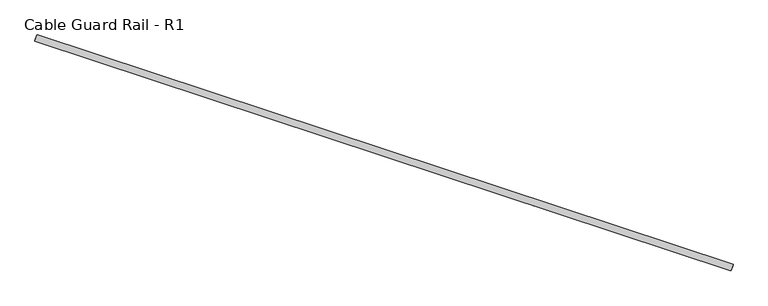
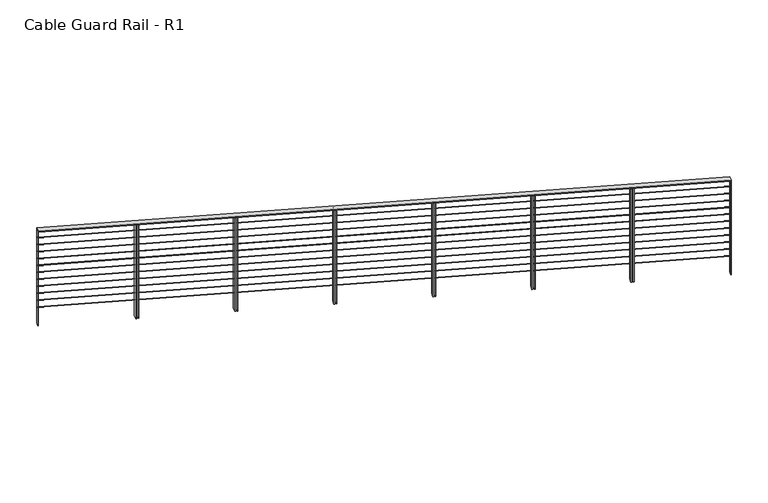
"""IFC4 building model written with IfcOpenShell, lengths in millimetres: railing geometry, Cable Guard Rail - R1."""

from ifc_helpers import new_model, si_unit, frame, origin, place, context, project, spatial, polyline, ellipse_curve, outline, extrude, faceted_brep, source, transform, mapped, element, save
from ifc_brep_helpers import plane_surface, cylinder_surface, advanced_brep


def cable_guard_rail_r1_774e3085(model_context):
    return source(origin(), model_context, "Body", "SolidModel", [
        faceted_brep([(48048.8260225, 189276.4688477, 295363.9), (48024.9235876, 189204.1147627, 295363.9), (48024.9235876, 189204.1147627, 295351.1813563), (48048.8260225, 189276.4688477, 295351.1813563), (40023.3252325, 191927.7222021, 295822.044981), (40023.3252325, 191927.7222021, 295809.3263373), (39999.4227976, 191855.3681172, 295809.3263373), (39999.4227976, 191855.3681172, 295822.044981)], [[[0, 1, 2, 3]], [[4, 5, 6, 7]], [[1, 0, 4, 7]], [[2, 1, 7, 6]], [[3, 2, 6, 5]], [[0, 3, 5, 4]]]),
        advanced_brep(
        [(48035.8788703, 189237.2770517, 295249.6), (48037.8707399, 189243.3065587, 295249.6), (40010.3780803, 191888.5304061, 295707.744981), (40012.3699499, 191894.5599132, 295707.744981)],
        [
            (0, 1, ellipse_curve(frame((48036.8748051, 189240.2918052, 295249.6), z_axis=(0.9495286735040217, -0.31368024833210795, 0.0), x_axis=(0.0, 0.0, -1.0)), 3.1796609, 3.175)),
            (1, 0, ellipse_curve(frame((48036.8748051, 189240.2918052, 295249.6), z_axis=(0.9495286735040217, -0.31368024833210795, 0.0), x_axis=(0.0, 0.0, -1.0)), 3.1796609, 3.175)),
            (2, 3, ellipse_curve(frame((40011.3740151, 191891.5451597, 295707.744981), z_axis=(-0.9495286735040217, 0.31368024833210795, 0.0), x_axis=(0.0, 0.0, -1.0)), 3.1796609, 3.175)),
            (3, 2, ellipse_curve(frame((40011.3740151, 191891.5451597, 295707.744981), z_axis=(-0.9495286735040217, 0.31368024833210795, 0.0), x_axis=(0.0, 0.0, -1.0)), 3.1796609, 3.175)),
            (0, 2),
            (3, 1),
        ],
        [
            plane_surface(frame((48036.8748051, 189240.2918052, 295249.6), z_axis=(0.9495286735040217, -0.31368024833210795, 0.0), x_axis=(0.31368024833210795, 0.9495286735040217, 0.0))),
            plane_surface(frame((40011.3740151, 191891.5451597, 295707.744981), z_axis=(-0.9495286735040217, 0.31368024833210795, 0.0), x_axis=(0.31368024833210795, 0.9495286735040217, 0.0))),
            cylinder_surface(frame((48036.8748051, 189240.2918052, 295249.6), z_axis=(0.9481367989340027, -0.3132204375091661, -0.05412548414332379), x_axis=(0.31368024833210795, 0.9495286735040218, 0.0)), 3.175),
        ],
        [
            (0, [[1, 2]]),
            (1, [[3, 4]]),
            (2, [[-1, 5, -4, 6]]),
            (2, [[-2, -6, -3, -5]]),
        ],
    ),
        advanced_brep(
        [(48035.8788703, 189237.2770517, 295148.0), (48037.8707399, 189243.3065587, 295148.0), (40010.3780803, 191888.5304061, 295606.144981), (40012.3699499, 191894.5599132, 295606.144981)],
        [
            (0, 1, ellipse_curve(frame((48036.8748051, 189240.2918052, 295148.0), z_axis=(0.9495286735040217, -0.31368024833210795, 0.0), x_axis=(0.0, 0.0, -1.0)), 3.1796609, 3.175)),
            (1, 0, ellipse_curve(frame((48036.8748051, 189240.2918052, 295148.0), z_axis=(0.9495286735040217, -0.31368024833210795, 0.0), x_axis=(0.0, 0.0, -1.0)), 3.1796609, 3.175)),
            (2, 3, ellipse_curve(frame((40011.3740151, 191891.5451597, 295606.144981), z_axis=(-0.9495286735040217, 0.31368024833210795, 0.0), x_axis=(0.0, 0.0, -1.0)), 3.1796609, 3.175)),
            (3, 2, ellipse_curve(frame((40011.3740151, 191891.5451597, 295606.144981), z_axis=(-0.9495286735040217, 0.31368024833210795, 0.0), x_axis=(0.0, 0.0, -1.0)), 3.1796609, 3.175)),
            (0, 2),
            (3, 1),
        ],
        [
            plane_surface(frame((48036.8748051, 189240.2918052, 295148.0), z_axis=(0.9495286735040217, -0.31368024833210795, 0.0), x_axis=(0.31368024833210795, 0.9495286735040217, 0.0))),
            plane_surface(frame((40011.3740151, 191891.5451597, 295606.144981), z_axis=(-0.9495286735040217, 0.31368024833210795, 0.0), x_axis=(0.31368024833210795, 0.9495286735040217, 0.0))),
            cylinder_surface(frame((48036.8748051, 189240.2918052, 295148.0), z_axis=(0.9481367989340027, -0.3132204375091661, -0.05412548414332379), x_axis=(0.31368024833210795, 0.9495286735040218, 0.0)), 3.175),
        ],
        [
            (0, [[1, 2]]),
            (1, [[3, 4]]),
            (2, [[-1, 5, -4, 6]]),
            (2, [[-2, -6, -3, -5]]),
        ],
    ),
        advanced_brep(
        [(48035.8788703, 189237.2770517, 295046.4), (48037.8707399, 189243.3065587, 295046.4), (40010.3780803, 191888.5304061, 295504.544981), (40012.3699499, 191894.5599132, 295504.544981)],
        [
            (0, 1, ellipse_curve(frame((48036.8748051, 189240.2918052, 295046.4), z_axis=(0.9495286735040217, -0.31368024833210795, 0.0), x_axis=(0.0, 0.0, -1.0)), 3.1796609, 3.175)),
            (1, 0, ellipse_curve(frame((48036.8748051, 189240.2918052, 295046.4), z_axis=(0.9495286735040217, -0.31368024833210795, 0.0), x_axis=(0.0, 0.0, -1.0)), 3.1796609, 3.175)),
            (2, 3, ellipse_curve(frame((40011.3740151, 191891.5451597, 295504.544981), z_axis=(-0.9495286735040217, 0.31368024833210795, 0.0), x_axis=(0.0, 0.0, -1.0)), 3.1796609, 3.175)),
            (3, 2, ellipse_curve(frame((40011.3740151, 191891.5451597, 295504.544981), z_axis=(-0.9495286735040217, 0.31368024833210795, 0.0), x_axis=(0.0, 0.0, -1.0)), 3.1796609, 3.175)),
            (0, 2),
            (3, 1),
        ],
        [
            plane_surface(frame((48036.8748051, 189240.2918052, 295046.4), z_axis=(0.9495286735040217, -0.31368024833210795, 0.0), x_axis=(0.31368024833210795, 0.9495286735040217, 0.0))),
            plane_surface(frame((40011.3740151, 191891.5451597, 295504.544981), z_axis=(-0.9495286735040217, 0.31368024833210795, 0.0), x_axis=(0.31368024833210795, 0.9495286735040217, 0.0))),
            cylinder_surface(frame((48036.8748051, 189240.2918052, 295046.4), z_axis=(0.9481367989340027, -0.3132204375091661, -0.05412548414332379), x_axis=(0.31368024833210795, 0.9495286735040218, 0.0)), 3.175),
        ],
        [
            (0, [[1, 2]]),
            (1, [[3, 4]]),
            (2, [[-1, 5, -4, 6]]),
            (2, [[-2, -6, -3, -5]]),
        ],
    ),
        advanced_brep(
        [(48035.8788703, 189237.2770517, 294944.8), (48037.8707399, 189243.3065587, 294944.8), (40010.3780803, 191888.5304061, 295402.944981), (40012.3699499, 191894.5599132, 295402.944981)],
        [
            (0, 1, ellipse_curve(frame((48036.8748051, 189240.2918052, 294944.8), z_axis=(0.9495286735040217, -0.31368024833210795, 0.0), x_axis=(0.0, 0.0, -1.0)), 3.1796609, 3.175)),
            (1, 0, ellipse_curve(frame((48036.8748051, 189240.2918052, 294944.8), z_axis=(0.9495286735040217, -0.31368024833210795, 0.0), x_axis=(0.0, 0.0, -1.0)), 3.1796609, 3.175)),
            (2, 3, ellipse_curve(frame((40011.3740151, 191891.5451597, 295402.944981), z_axis=(-0.9495286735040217, 0.31368024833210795, 0.0), x_axis=(0.0, 0.0, -1.0)), 3.1796609, 3.175)),
            (3, 2, ellipse_curve(frame((40011.3740151, 191891.5451597, 295402.944981), z_axis=(-0.9495286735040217, 0.31368024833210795, 0.0), x_axis=(0.0, 0.0, -1.0)), 3.1796609, 3.175)),
            (0, 2),
            (3, 1),
        ],
        [
            plane_surface(frame((48036.8748051, 189240.2918052, 294944.8), z_axis=(0.9495286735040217, -0.31368024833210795, 0.0), x_axis=(0.31368024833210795, 0.9495286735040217, 0.0))),
            plane_surface(frame((40011.3740151, 191891.5451597, 295402.944981), z_axis=(-0.9495286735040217, 0.31368024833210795, 0.0), x_axis=(0.31368024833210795, 0.9495286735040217, 0.0))),
            cylinder_surface(frame((48036.8748051, 189240.2918052, 294944.8), z_axis=(0.9481367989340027, -0.3132204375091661, -0.05412548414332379), x_axis=(0.31368024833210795, 0.9495286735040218, 0.0)), 3.175),
        ],
        [
            (0, [[1, 2]]),
            (1, [[3, 4]]),
            (2, [[-1, 5, -4, 6]]),
            (2, [[-2, -6, -3, -5]]),
        ],
    ),
        advanced_brep(
        [(48035.8788703, 189237.2770517, 294843.2), (48037.8707399, 189243.3065587, 294843.2), (40010.3780803, 191888.5304061, 295301.344981), (40012.3699499, 191894.5599132, 295301.344981)],
        [
            (0, 1, ellipse_curve(frame((48036.8748051, 189240.2918052, 294843.2), z_axis=(0.9495286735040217, -0.31368024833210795, 0.0), x_axis=(0.0, 0.0, -1.0)), 3.1796609, 3.175)),
            (1, 0, ellipse_curve(frame((48036.8748051, 189240.2918052, 294843.2), z_axis=(0.9495286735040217, -0.31368024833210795, 0.0), x_axis=(0.0, 0.0, -1.0)), 3.1796609, 3.175)),
            (2, 3, ellipse_curve(frame((40011.3740151, 191891.5451597, 295301.344981), z_axis=(-0.9495286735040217, 0.31368024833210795, 0.0), x_axis=(0.0, 0.0, -1.0)), 3.1796609, 3.175)),
            (3, 2, ellipse_curve(frame((40011.3740151, 191891.5451597, 295301.344981), z_axis=(-0.9495286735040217, 0.31368024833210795, 0.0), x_axis=(0.0, 0.0, -1.0)), 3.1796609, 3.175)),
            (0, 2),
            (3, 1),
        ],
        [
            plane_surface(frame((48036.8748051, 189240.2918052, 294843.2), z_axis=(0.9495286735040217, -0.31368024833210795, 0.0), x_axis=(0.31368024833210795, 0.9495286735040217, 0.0))),
            plane_surface(frame((40011.3740151, 191891.5451597, 295301.344981), z_axis=(-0.9495286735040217, 0.31368024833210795, 0.0), x_axis=(0.31368024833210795, 0.9495286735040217, 0.0))),
            cylinder_surface(frame((48036.8748051, 189240.2918052, 294843.2), z_axis=(0.9481367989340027, -0.3132204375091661, -0.05412548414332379), x_axis=(0.31368024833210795, 0.9495286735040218, 0.0)), 3.175),
        ],
        [
            (0, [[1, 2]]),
            (1, [[3, 4]]),
            (2, [[-1, 5, -4, 6]]),
            (2, [[-2, -6, -3, -5]]),
        ],
    ),
        advanced_brep(
        [(48035.8788703, 189237.2770517, 294741.6), (48037.8707399, 189243.3065587, 294741.6), (40010.3780803, 191888.5304061, 295199.744981), (40012.3699499, 191894.5599132, 295199.744981)],
        [
            (0, 1, ellipse_curve(frame((48036.8748051, 189240.2918052, 294741.6), z_axis=(0.9495286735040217, -0.31368024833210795, 0.0), x_axis=(0.0, 0.0, -1.0)), 3.1796609, 3.175)),
            (1, 0, ellipse_curve(frame((48036.8748051, 189240.2918052, 294741.6), z_axis=(0.9495286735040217, -0.31368024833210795, 0.0), x_axis=(0.0, 0.0, -1.0)), 3.1796609, 3.175)),
            (2, 3, ellipse_curve(frame((40011.3740151, 191891.5451597, 295199.744981), z_axis=(-0.9495286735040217, 0.31368024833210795, 0.0), x_axis=(0.0, 0.0, -1.0)), 3.1796609, 3.175)),
            (3, 2, ellipse_curve(frame((40011.3740151, 191891.5451597, 295199.744981), z_axis=(-0.9495286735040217, 0.31368024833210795, 0.0), x_axis=(0.0, 0.0, -1.0)), 3.1796609, 3.175)),
            (0, 2),
            (3, 1),
        ],
        [
            plane_surface(frame((48036.8748051, 189240.2918052, 294741.6), z_axis=(0.9495286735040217, -0.31368024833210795, 0.0), x_axis=(0.31368024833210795, 0.9495286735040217, 0.0))),
            plane_surface(frame((40011.3740151, 191891.5451597, 295199.744981), z_axis=(-0.9495286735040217, 0.31368024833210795, 0.0), x_axis=(0.31368024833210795, 0.9495286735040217, 0.0))),
            cylinder_surface(frame((48036.8748051, 189240.2918052, 294741.6), z_axis=(0.9481367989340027, -0.3132204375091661, -0.05412548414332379), x_axis=(0.31368024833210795, 0.9495286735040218, 0.0)), 3.175),
        ],
        [
            (0, [[1, 2]]),
            (1, [[3, 4]]),
            (2, [[-1, 5, -4, 6]]),
            (2, [[-2, -6, -3, -5]]),
        ],
    ),
        advanced_brep(
        [(48035.8788703, 189237.2770517, 294640.0), (48037.8707399, 189243.3065587, 294640.0), (40010.3780803, 191888.5304061, 295098.144981), (40012.3699499, 191894.5599132, 295098.144981)],
        [
            (0, 1, ellipse_curve(frame((48036.8748051, 189240.2918052, 294640.0), z_axis=(0.9495286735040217, -0.31368024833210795, 0.0), x_axis=(0.0, 0.0, -1.0)), 3.1796609, 3.175)),
            (1, 0, ellipse_curve(frame((48036.8748051, 189240.2918052, 294640.0), z_axis=(0.9495286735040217, -0.31368024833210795, 0.0), x_axis=(0.0, 0.0, -1.0)), 3.1796609, 3.175)),
            (2, 3, ellipse_curve(frame((40011.3740151, 191891.5451597, 295098.144981), z_axis=(-0.9495286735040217, 0.31368024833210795, 0.0), x_axis=(0.0, 0.0, -1.0)), 3.1796609, 3.175)),
            (3, 2, ellipse_curve(frame((40011.3740151, 191891.5451597, 295098.144981), z_axis=(-0.9495286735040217, 0.31368024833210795, 0.0), x_axis=(0.0, 0.0, -1.0)), 3.1796609, 3.175)),
            (0, 2),
            (3, 1),
        ],
        [
            plane_surface(frame((48036.8748051, 189240.2918052, 294640.0), z_axis=(0.9495286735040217, -0.31368024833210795, 0.0), x_axis=(0.31368024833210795, 0.9495286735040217, 0.0))),
            plane_surface(frame((40011.3740151, 191891.5451597, 295098.144981), z_axis=(-0.9495286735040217, 0.31368024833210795, 0.0), x_axis=(0.31368024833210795, 0.9495286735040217, 0.0))),
            cylinder_surface(frame((48036.8748051, 189240.2918052, 294640.0), z_axis=(0.9481367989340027, -0.3132204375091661, -0.05412548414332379), x_axis=(0.31368024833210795, 0.9495286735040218, 0.0)), 3.175),
        ],
        [
            (0, [[1, 2]]),
            (1, [[3, 4]]),
            (2, [[-1, 5, -4, 6]]),
            (2, [[-2, -6, -3, -5]]),
        ],
    ),
        advanced_brep(
        [(48035.8788703, 189237.2770517, 294538.4), (48037.8707399, 189243.3065587, 294538.4), (40010.3780803, 191888.5304061, 294996.544981), (40012.3699499, 191894.5599132, 294996.544981)],
        [
            (0, 1, ellipse_curve(frame((48036.8748051, 189240.2918052, 294538.4), z_axis=(0.9495286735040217, -0.31368024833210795, 0.0), x_axis=(0.0, 0.0, -1.0)), 3.1796609, 3.175)),
            (1, 0, ellipse_curve(frame((48036.8748051, 189240.2918052, 294538.4), z_axis=(0.9495286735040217, -0.31368024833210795, 0.0), x_axis=(0.0, 0.0, -1.0)), 3.1796609, 3.175)),
            (2, 3, ellipse_curve(frame((40011.3740151, 191891.5451597, 294996.544981), z_axis=(-0.9495286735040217, 0.31368024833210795, 0.0), x_axis=(0.0, 0.0, -1.0)), 3.1796609, 3.175)),
            (3, 2, ellipse_curve(frame((40011.3740151, 191891.5451597, 294996.544981), z_axis=(-0.9495286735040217, 0.31368024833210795, 0.0), x_axis=(0.0, 0.0, -1.0)), 3.1796609, 3.175)),
            (0, 2),
            (3, 1),
        ],
        [
            plane_surface(frame((48036.8748051, 189240.2918052, 294538.4), z_axis=(0.9495286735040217, -0.31368024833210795, 0.0), x_axis=(0.31368024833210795, 0.9495286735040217, 0.0))),
            plane_surface(frame((40011.3740151, 191891.5451597, 294996.544981), z_axis=(-0.9495286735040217, 0.31368024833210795, 0.0), x_axis=(0.31368024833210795, 0.9495286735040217, 0.0))),
            cylinder_surface(frame((48036.8748051, 189240.2918052, 294538.4), z_axis=(0.9481367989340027, -0.3132204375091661, -0.05412548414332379), x_axis=(0.31368024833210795, 0.9495286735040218, 0.0)), 3.175),
        ],
        [
            (0, [[1, 2]]),
            (1, [[3, 4]]),
            (2, [[-1, 5, -4, 6]]),
            (2, [[-2, -6, -3, -5]]),
        ],
    ),
        advanced_brep(
        [(48035.8788703, 189237.2770517, 294436.8), (48037.8707399, 189243.3065587, 294436.8), (40010.3780803, 191888.5304061, 294894.944981), (40012.3699499, 191894.5599132, 294894.944981)],
        [
            (0, 1, ellipse_curve(frame((48036.8748051, 189240.2918052, 294436.8), z_axis=(0.9495286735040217, -0.31368024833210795, 0.0), x_axis=(0.0, 0.0, -1.0)), 3.1796609, 3.175)),
            (1, 0, ellipse_curve(frame((48036.8748051, 189240.2918052, 294436.8), z_axis=(0.9495286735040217, -0.31368024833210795, 0.0), x_axis=(0.0, 0.0, -1.0)), 3.1796609, 3.175)),
            (2, 3, ellipse_curve(frame((40011.3740151, 191891.5451597, 294894.944981), z_axis=(-0.9495286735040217, 0.31368024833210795, 0.0), x_axis=(0.0, 0.0, -1.0)), 3.1796609, 3.175)),
            (3, 2, ellipse_curve(frame((40011.3740151, 191891.5451597, 294894.944981), z_axis=(-0.9495286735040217, 0.31368024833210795, 0.0), x_axis=(0.0, 0.0, -1.0)), 3.1796609, 3.175)),
            (0, 2),
            (3, 1),
        ],
        [
            plane_surface(frame((48036.8748051, 189240.2918052, 294436.8), z_axis=(0.9495286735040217, -0.31368024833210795, 0.0), x_axis=(0.31368024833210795, 0.9495286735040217, 0.0))),
            plane_surface(frame((40011.3740151, 191891.5451597, 294894.944981), z_axis=(-0.9495286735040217, 0.31368024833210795, 0.0), x_axis=(0.31368024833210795, 0.9495286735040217, 0.0))),
            cylinder_surface(frame((48036.8748051, 189240.2918052, 294436.8), z_axis=(0.9481367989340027, -0.3132204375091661, -0.05412548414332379), x_axis=(0.31368024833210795, 0.9495286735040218, 0.0)), 3.175),
        ],
        [
            (0, [[1, 2]]),
            (1, [[3, 4]]),
            (2, [[-1, 5, -4, 6]]),
            (2, [[-2, -6, -3, -5]]),
        ],
    ),
        advanced_brep(
        [(48035.8788703, 189237.2770517, 294335.2), (48037.8707399, 189243.3065587, 294335.2), (40010.3780803, 191888.5304061, 294793.344981), (40012.3699499, 191894.5599132, 294793.344981)],
        [
            (0, 1, ellipse_curve(frame((48036.8748051, 189240.2918052, 294335.2), z_axis=(0.9495286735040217, -0.31368024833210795, 0.0), x_axis=(0.0, 0.0, -1.0)), 3.1796609, 3.175)),
            (1, 0, ellipse_curve(frame((48036.8748051, 189240.2918052, 294335.2), z_axis=(0.9495286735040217, -0.31368024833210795, 0.0), x_axis=(0.0, 0.0, -1.0)), 3.1796609, 3.175)),
            (2, 3, ellipse_curve(frame((40011.3740151, 191891.5451597, 294793.344981), z_axis=(-0.9495286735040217, 0.31368024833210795, 0.0), x_axis=(0.0, 0.0, -1.0)), 3.1796609, 3.175)),
            (3, 2, ellipse_curve(frame((40011.3740151, 191891.5451597, 294793.344981), z_axis=(-0.9495286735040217, 0.31368024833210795, 0.0), x_axis=(0.0, 0.0, -1.0)), 3.1796609, 3.175)),
            (0, 2),
            (3, 1),
        ],
        [
            plane_surface(frame((48036.8748051, 189240.2918052, 294335.2), z_axis=(0.9495286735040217, -0.31368024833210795, 0.0), x_axis=(0.31368024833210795, 0.9495286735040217, 0.0))),
            plane_surface(frame((40011.3740151, 191891.5451597, 294793.344981), z_axis=(-0.9495286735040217, 0.31368024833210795, 0.0), x_axis=(0.31368024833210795, 0.9495286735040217, 0.0))),
            cylinder_surface(frame((48036.8748051, 189240.2918052, 294335.2), z_axis=(0.9481367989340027, -0.3132204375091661, -0.05412548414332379), x_axis=(0.31368024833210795, 0.9495286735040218, 0.0)), 3.175),
        ],
        [
            (0, [[1, 2]]),
            (1, [[3, 4]]),
            (2, [[-1, 5, -4, 6]]),
            (2, [[-2, -6, -3, -5]]),
        ],
    ),
        advanced_brep(
        [(48035.8788703, 189237.2770517, 294233.6), (48037.8707399, 189243.3065587, 294233.6), (40010.3780803, 191888.5304061, 294691.744981), (40012.3699499, 191894.5599132, 294691.744981)],
        [
            (0, 1, ellipse_curve(frame((48036.8748051, 189240.2918052, 294233.6), z_axis=(0.9495286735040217, -0.31368024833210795, 0.0), x_axis=(0.0, 0.0, -1.0)), 3.1796609, 3.175)),
            (1, 0, ellipse_curve(frame((48036.8748051, 189240.2918052, 294233.6), z_axis=(0.9495286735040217, -0.31368024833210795, 0.0), x_axis=(0.0, 0.0, -1.0)), 3.1796609, 3.175)),
            (2, 3, ellipse_curve(frame((40011.3740151, 191891.5451597, 294691.744981), z_axis=(-0.9495286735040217, 0.31368024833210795, 0.0), x_axis=(0.0, 0.0, -1.0)), 3.1796609, 3.175)),
            (3, 2, ellipse_curve(frame((40011.3740151, 191891.5451597, 294691.744981), z_axis=(-0.9495286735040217, 0.31368024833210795, 0.0), x_axis=(0.0, 0.0, -1.0)), 3.1796609, 3.175)),
            (0, 2),
            (3, 1),
        ],
        [
            plane_surface(frame((48036.8748051, 189240.2918052, 294233.6), z_axis=(0.9495286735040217, -0.31368024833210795, 0.0), x_axis=(0.31368024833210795, 0.9495286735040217, 0.0))),
            plane_surface(frame((40011.3740151, 191891.5451597, 294691.744981), z_axis=(-0.9495286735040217, 0.31368024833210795, 0.0), x_axis=(0.31368024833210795, 0.9495286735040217, 0.0))),
            cylinder_surface(frame((48036.8748051, 189240.2918052, 294233.6), z_axis=(0.9481367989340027, -0.3132204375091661, -0.05412548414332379), x_axis=(0.31368024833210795, 0.9495286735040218, 0.0)), 3.175),
        ],
        [
            (0, [[1, 2]]),
            (1, [[3, 4]]),
            (2, [[-1, 5, -4, 6]]),
            (2, [[-2, -6, -3, -5]]),
        ],
    ),
        extrude(outline(polyline([(41167.0261852, 191469.6460945), (41157.9819246, 191472.6338988), (41181.8843596, 191544.9879838), (41190.9286202, 191542.0001794), (41167.0261852, 191469.6460945)])), frame((0.0, 0.0, 294378.645698), z_axis=(0.0, 0.0, 1.0), x_axis=(1.0, 0.0, 0.0)), (0.0, 0.0, 1.0), 1365.25),
        extrude(outline(polyline([(41139.8934034, 191478.6095076), (41130.8949437, 191481.5821814), (41154.7973786, 191553.9362664), (41163.7958383, 191550.9635925), (41139.8934034, 191478.6095076)])), frame((0.0, 0.0, 294378.645698), z_axis=(0.0, 0.0, 1.0), x_axis=(1.0, 0.0, 0.0)), (0.0, 0.0, 1.0), 1365.25),
        extrude(outline(polyline([(42313.5262981, 191090.8956153), (42304.4820375, 191093.8834196), (42328.3844724, 191166.2375045), (42337.428733, 191163.2497002), (42313.5262981, 191090.8956153)])), frame((0.0, 0.0, 294313.196415), z_axis=(0.0, 0.0, 1.0), x_axis=(1.0, 0.0, 0.0)), (0.0, 0.0, 1.0), 1365.25),
        extrude(outline(polyline([(42286.3935163, 191099.8590284), (42277.3950565, 191102.8317022), (42301.2974914, 191175.1857872), (42310.2959512, 191172.2131133), (42286.3935163, 191099.8590284)])), frame((0.0, 0.0, 294313.196415), z_axis=(0.0, 0.0, 1.0), x_axis=(1.0, 0.0, 0.0)), (0.0, 0.0, 1.0), 1365.25),
        extrude(outline(polyline([(43460.026411, 190712.145136), (43450.9821503, 190715.1329404), (43474.8845853, 190787.4870253), (43483.9288459, 190784.499221), (43460.026411, 190712.145136)])), frame((0.0, 0.0, 294247.747132), z_axis=(0.0, 0.0, 1.0), x_axis=(1.0, 0.0, 0.0)), (0.0, 0.0, 1.0), 1365.25),
        extrude(outline(polyline([(43432.8936291, 190721.1085491), (43423.8951694, 190724.081223), (43447.7976043, 190796.4353079), (43456.796064, 190793.4626341), (43432.8936291, 190721.1085491)])), frame((0.0, 0.0, 294247.747132), z_axis=(0.0, 0.0, 1.0), x_axis=(1.0, 0.0, 0.0)), (0.0, 0.0, 1.0), 1365.25),
        extrude(outline(polyline([(44606.5265238, 190333.3946568), (44597.4822632, 190336.3824612), (44621.3846981, 190408.7365461), (44630.4289587, 190405.7487418), (44606.5265238, 190333.3946568)])), frame((0.0, 0.0, 294182.297849), z_axis=(0.0, 0.0, 1.0), x_axis=(1.0, 0.0, 0.0)), (0.0, 0.0, 1.0), 1365.25),
        extrude(outline(polyline([(44579.393742, 190342.3580699), (44570.3952822, 190345.3307438), (44594.2977171, 190417.6848287), (44603.2961769, 190414.7121549), (44579.393742, 190342.3580699)])), frame((0.0, 0.0, 294182.297849), z_axis=(0.0, 0.0, 1.0), x_axis=(1.0, 0.0, 0.0)), (0.0, 0.0, 1.0), 1365.25),
        extrude(outline(polyline([(45753.0266367, 189954.6441776), (45743.982376, 189957.631982), (45767.884811, 190029.9860669), (45776.9290716, 190026.9982626), (45753.0266367, 189954.6441776)])), frame((0.0, 0.0, 294116.848566), z_axis=(0.0, 0.0, 1.0), x_axis=(1.0, 0.0, 0.0)), (0.0, 0.0, 1.0), 1365.25),
        extrude(outline(polyline([(45725.8938548, 189963.6075907), (45716.8953951, 189966.5802646), (45740.79783, 190038.9343495), (45749.7962897, 190035.9616756), (45725.8938548, 189963.6075907)])), frame((0.0, 0.0, 294116.848566), z_axis=(0.0, 0.0, 1.0), x_axis=(1.0, 0.0, 0.0)), (0.0, 0.0, 1.0), 1365.25),
        extrude(outline(polyline([(46899.5267495, 189575.8936984), (46890.4824889, 189578.8815028), (46914.3849238, 189651.2355877), (46923.4291844, 189648.2477833), (46899.5267495, 189575.8936984)])), frame((0.0, 0.0, 294051.399283), z_axis=(0.0, 0.0, 1.0), x_axis=(1.0, 0.0, 0.0)), (0.0, 0.0, 1.0), 1365.25),
        extrude(outline(polyline([(46872.3939677, 189584.8571115), (46863.3955079, 189587.8297854), (46887.2979429, 189660.1838703), (46896.2964026, 189657.2111964), (46872.3939677, 189584.8571115)])), frame((0.0, 0.0, 294051.399283), z_axis=(0.0, 0.0, 1.0), x_axis=(1.0, 0.0, 0.0)), (0.0, 0.0, 1.0), 1365.25),
        extrude(outline(polyline([(40004.4294207, 191860.4016895), (39998.3999137, 191862.3935591), (40018.3186094, 191922.6886298), (40024.3481165, 191920.6967603), (40004.4294207, 191860.4016895)])), frame((0.0, 0.0, 294444.094981), z_axis=(0.0, 0.0, 1.0), x_axis=(1.0, 0.0, 0.0)), (0.0, 0.0, 1.0), 1365.25),
        extrude(outline(polyline([(48029.9302107, 189209.148335), (48023.9007036, 189211.1402046), (48043.8193994, 189271.4352754), (48049.8489065, 189269.4434058), (48029.9302107, 189209.148335)])), frame((0.0, 0.0, 293985.95), z_axis=(0.0, 0.0, 1.0), x_axis=(1.0, 0.0, 0.0)), (0.0, 0.0, 1.0), 1365.25),
    ])


if __name__ == "__main__":
    model = new_model("IFC4")
    model_context = context("Model", 3, world=origin())
    ifc_project = project(units=[si_unit("LENGTHUNIT", "METRE", prefix="MILLI")], contexts=[model_context])
    site = spatial("IfcSite", under=ifc_project)
    building = spatial("IfcBuilding", under=site)
    placement = place(None, origin())
    cable_guard_rail_r1_shape = cable_guard_rail_r1_774e3085(model_context)
    element("IfcRailing", 1, ObjectType="Cable Guard Rail - R1", at=placement, inside=building, context=model_context, shape_type="MappedRepresentation", body=[
        mapped(cable_guard_rail_r1_shape, transform((0.0, 0.0, 0.0), x_axis=(1.0, 0.0, 0.0), y_axis=(0.0, 1.0, 0.0), z_axis=(0.0, 0.0, 1.0))),
    ])
    save(model, "model.ifc")
